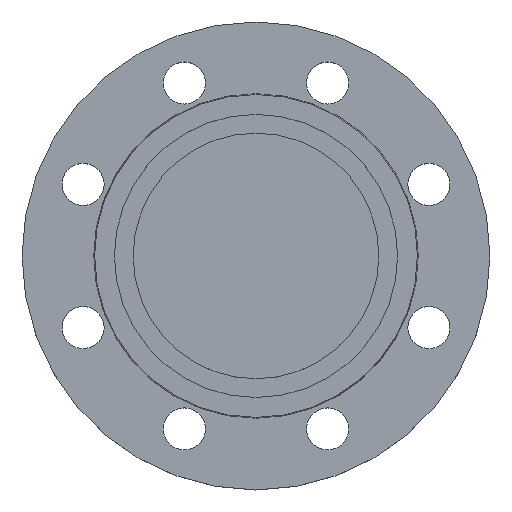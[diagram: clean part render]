
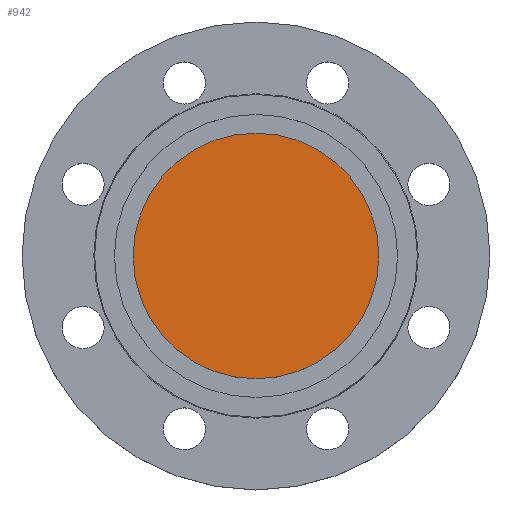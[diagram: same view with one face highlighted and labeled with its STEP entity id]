
A CAD part, top view. The second image highlights one B-rep face of the part: STEP entity #942.
In plain terms, the highlighted planar face has unit normal (0, 0, 1).
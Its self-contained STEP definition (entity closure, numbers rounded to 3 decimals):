
#5 = DIRECTION ( 'NONE',  ( 1., 0., 0. ) ) ;
#6 = DIRECTION ( 'NONE',  ( 0., 0., 1. ) ) ;
#8 = CARTESIAN_POINT ( 'NONE',  ( 0., 0., 0. ) ) ;
#10 = PLANE ( 'NONE',  #659 ) ;
#12 = FACE_OUTER_BOUND ( 'NONE', #1100, .T. ) ;
#71 = CIRCLE ( 'NONE', #228, 52.5 ) ;
#78 = EDGE_CURVE ( 'NONE', #765, #766, #71, .T. ) ;
#121 = CARTESIAN_POINT ( 'NONE',  ( 52.5, 0., 0. ) ) ;
#123 = CARTESIAN_POINT ( 'NONE',  ( -52.5, 0., 0. ) ) ;
#228 = AXIS2_PLACEMENT_3D ( 'NONE', #608, #609, #610 ) ;
#382 = AXIS2_PLACEMENT_3D ( 'NONE', #445, #444, #443 ) ;
#408 = EDGE_CURVE ( 'NONE', #766, #765, #488, .T. ) ;
#443 = DIRECTION ( 'NONE',  ( -1., 0., 0. ) ) ;
#444 = DIRECTION ( 'NONE',  ( 0., 0., -1. ) ) ;
#445 = CARTESIAN_POINT ( 'NONE',  ( 0., 0., 0. ) ) ;
#488 = CIRCLE ( 'NONE', #382, 52.5 ) ;
#608 = CARTESIAN_POINT ( 'NONE',  ( 0., 0., 0. ) ) ;
#609 = DIRECTION ( 'NONE',  ( 0., 0., -1. ) ) ;
#610 = DIRECTION ( 'NONE',  ( -1., 0., 0. ) ) ;
#659 = AXIS2_PLACEMENT_3D ( 'NONE', #8, #6, #5 ) ;
#765 = VERTEX_POINT ( 'NONE', #123 ) ;
#766 = VERTEX_POINT ( 'NONE', #121 ) ;
#942 = ADVANCED_FACE ( 'NONE', ( #12 ), #10, .T. ) ;
#986 = ORIENTED_EDGE ( 'NONE', *, *, #78, .F. ) ;
#987 = ORIENTED_EDGE ( 'NONE', *, *, #408, .F. ) ;
#1100 = EDGE_LOOP ( 'NONE', ( #986, #987 ) ) ;
